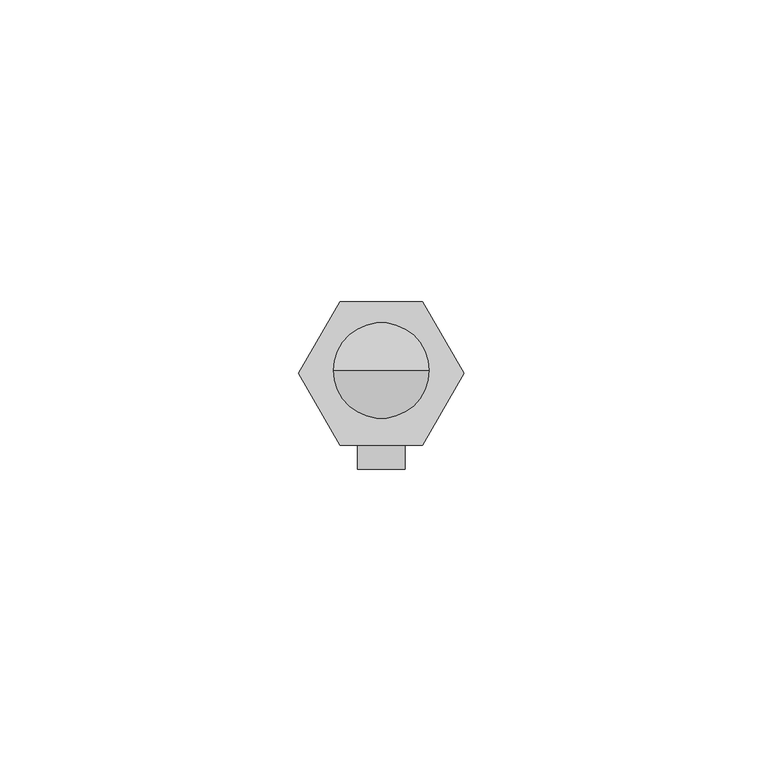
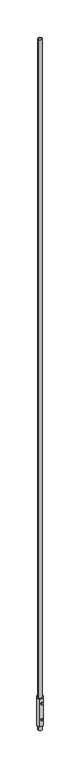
"""IFC4 building model written with IfcOpenShell, lengths in millimetres: proxy geometry, КНС_СтерженьМолниеприемный_DKC : NL3000_Алюминий_3м."""

from ifc_helpers import new_model, si_unit, point, frame, frame_2d, origin, origin_with_axes, origin_2d, place, context, project, spatial, polyline, circle_curve, trimmed, segment, composite_curve, outline, extrude, source, transform, mapped, element, save
from ifc_brep_helpers import plane_surface, cylinder_surface, revolved_surface, advanced_brep


def security_devices_a29eabd2(model_context):
    return source(origin(), model_context, "Body", "SolidModel", [
        advanced_brep(
        [(-8.0, 0.0, 140.0), (8.0, 0.0, 140.0), (8.0, 0.0, 2995.3811978), (-8.0, 0.0, 2995.3811978), (0.0, 0.0, 3000.0)],
        [
            (0, 1, circle_curve(frame((0.0, 0.0, 140.0), z_axis=(0.0, 0.0, -1.0), x_axis=(1.0, 0.0, 0.0)), 8.0)),
            (1, 0, circle_curve(frame((0.0, 0.0, 140.0), z_axis=(0.0, 0.0, -1.0), x_axis=(1.0, 0.0, 0.0)), 8.0)),
            (1, 2),
            (2, 3, circle_curve(frame((0.0, 0.0, 2995.3811978), z_axis=(0.0, 0.0, -1.0), x_axis=(1.0, 0.0, 0.0)), 8.0)),
            (3, 0),
            (3, 2, circle_curve(frame((0.0, 0.0, 2995.3811978), z_axis=(0.0, 0.0, -1.0), x_axis=(1.0, 0.0, 0.0)), 8.0)),
            (3, 4),
            (4, 2),
        ],
        [
            plane_surface(frame((8.0, 0.0, 140.0), z_axis=(0.0, 0.0, -1.0), x_axis=(0.0, -1.0, 0.0))),
            cylinder_surface(frame((0.0, 0.0, 140.0), z_axis=(0.0, 0.0, 1.0), x_axis=(1.0, 0.0, 0.0)), 8.0),
            revolved_surface(polyline([(12.9903811, 0.0, 2992.5), (0.0, 0.0, 3000.0)]), (0.0, 0.0, 5938.9550208), (0.0, 0.0, 1.0)),
        ],
        [
            (0, [[1, 2]]),
            (1, [[-2, 3, 4, 5]]),
            (1, [[-1, -5, 6, -3]]),
            (2, [[7, 8, -6]]),
            (2, [[-7, -4, -8]]),
        ],
    ),
        extrude(outline(composite_curve([segment(trimmed(circle_curve(frame_2d((120.0, 0.0)), 4.0), [point((120.0, -4.0))], [point((120.0, 4.0))], False, "CARTESIAN"), True, "CONTINUOUS"), segment(trimmed(circle_curve(frame_2d((120.0, 0.0)), 4.0), [point((120.0, 4.0))], [point((120.0, -4.0))], False, "CARTESIAN"), True, "CONTINUOUS")], self_intersect=False)), frame((0.0, -16.0, 0.0), z_axis=(0.0, 1.0, 0.0), x_axis=(0.0, 0.0, 1.0)), (0.0, 0.0, 1.0), 4.0),
        extrude(outline(composite_curve([segment(trimmed(circle_curve(frame_2d((50.0, 0.0)), 4.0), [point((50.0, -4.0))], [point((50.0, 4.0))], False, "CARTESIAN"), True, "CONTINUOUS"), segment(trimmed(circle_curve(frame_2d((50.0, 0.0)), 4.0), [point((50.0, 4.0))], [point((50.0, -4.0))], False, "CARTESIAN"), True, "CONTINUOUS")], self_intersect=False)), frame((0.0, -16.0, 0.0), z_axis=(0.0, 1.0, 0.0), x_axis=(0.0, 0.0, 1.0)), (0.0, 0.0, 1.0), 4.0),
        extrude(outline(polyline([(-13.8564065, 0.0), (-6.9282032, 12.0), (6.9282032, 12.0), (13.8564065, 0.0), (6.9282032, -12.0), (-6.9282032, -12.0), (-13.8564065, 0.0)])), frame((0.0, 0.0, 20.0), z_axis=(0.0, 0.0, 1.0), x_axis=(1.0, 0.0, 0.0)), (0.0, 0.0, 1.0), 120.0),
        extrude(outline(composite_curve([segment(trimmed(circle_curve(origin_2d(), 8.0), [point((-8.0, 0.0))], [point((8.0, 0.0))], False, "CARTESIAN"), True, "CONTINUOUS"), segment(trimmed(circle_curve(origin_2d(), 8.0), [point((8.0, 0.0))], [point((-8.0, 0.0))], False, "CARTESIAN"), True, "CONTINUOUS")], self_intersect=False)), origin_with_axes(), (0.0, 0.0, 1.0), 20.0),
    ])


if __name__ == "__main__":
    model = new_model("IFC4")
    model_context = context("Model", 3, world=origin())
    ifc_project = project(units=[si_unit("LENGTHUNIT", "METRE", prefix="MILLI")], contexts=[model_context])
    site = spatial("IfcSite", under=ifc_project)
    building = spatial("IfcBuilding", under=site)
    placement = place(None, origin())
    security_devices_shape = security_devices_a29eabd2(model_context)
    element("IfcBuildingElementProxy", 1, Name="КНС_СтерженьМолниеприемный_DKC : NL3000_Алюминий_3м", ObjectType="КНС_СтерженьМолниеприемный_DKC : NL3000_Алюминий_3м", at=placement, inside=building, context=model_context, shape_type="MappedRepresentation", body=[
        mapped(security_devices_shape, transform((0.0, 0.0, 0.0), x_axis=(1.0, 0.0, 0.0), y_axis=(0.0, 1.0, 0.0), z_axis=(0.0, 0.0, 1.0))),
    ])
    save(model, "model.ifc")
